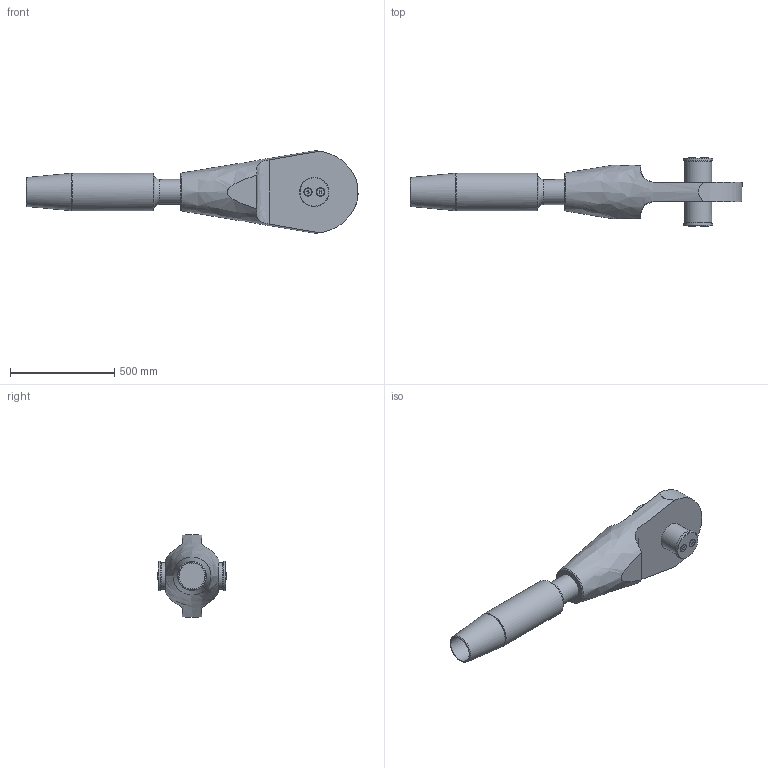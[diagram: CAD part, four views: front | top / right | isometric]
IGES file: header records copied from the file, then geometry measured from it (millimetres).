
Global section: file name: 520-120-OES-ADA; native system: Autodesk Inventor 2020; preprocessor: unknown; author: Administrator; date: 20201008.095937; units: millimetre
Bounding box: 1589.58 x 327 x 394.2 mm (x, y, z)
Volume: 51776893.8 mm3; surface area: 1625948.4 mm2
Topology: 10 solids, 10 shells, 109 faces, 281 edges, 193 vertices
Faces by surface type: bspline 109
